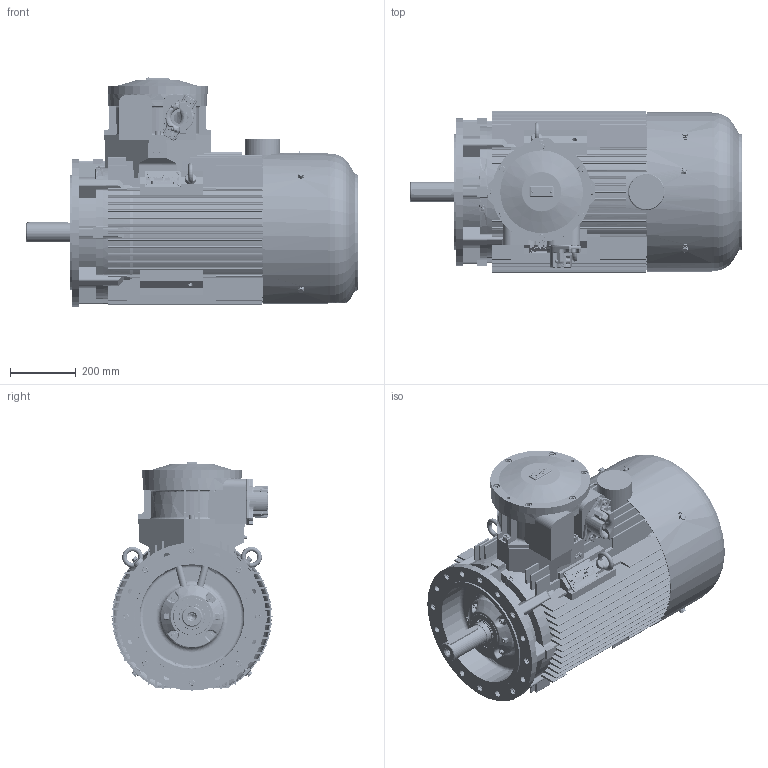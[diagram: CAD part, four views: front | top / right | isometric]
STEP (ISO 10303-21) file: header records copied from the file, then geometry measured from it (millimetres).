
FILE_DESCRIPTION(/* description */ ('Unknown'),/* implementation_level */ '2;1');
FILE_NAME(/* name */ 'Silnik cSTKe225 (S,M)(4-8) - wykonanie OUTSIDE !',/* time_stamp */ '2021-12-23T11:57:28+01:00',/* author */ ('Unknown'),/* organization */ ('Unknown'),/* preprocessor_version */ 'ST-DEVELOPER v16.7',/* originating_system */ 'DEX',/* authorisation */ $);
FILE_SCHEMA (('AUTOMOTIVE_DESIGN {1 0 10303 214 3 1 1}'));
Products named in the file (1): Silnik cSTKe225 (S,M)(4-8) - wykonanie OUTSIDE !
Bounding box: 1009.13 x 489.83 x 696.46 mm (x, y, z)
Volume: 30952271.4 mm3; surface area: 7007205.3 mm2
Topology: 3 solids, 69 shells, 8406 faces, 23211 edges, 15002 vertices
Faces by surface type: plane 5523, cylinder 1674, cone 419, torus 342, bspline 326, sphere 122
Full cylindrical faces by diameter (mm): 1.2 x6, 1.6 x2, 2.459 x3, 2.5 x2, 3 x10, 3.1 x4, 3.2 x2, 3.4 x6, 4.773 x1, 4.917 x4, 5 x3, 6 x2, 6.2 x14, 6.3 x1, 6.4 x2, 6.466 x8, 6.5 x1, 6.647 x4, 8 x17, 8.16 x4, 8.376 x2, 8.8 x1, 8.917 x4, 9 x8, 9.853 x26, 10 x20, 10.106 x29, 10.5 x4, 12 x56, 13 x8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
Entity records: 334840 total; most frequent: CARTESIAN_POINT 67166, ORIENTED_EDGE 43478, DIRECTION 40858, EDGE_CURVE 21739, LINE 15470, VECTOR 15470, VERTEX_POINT 14477, AXIS2_PLACEMENT_3D 12694
